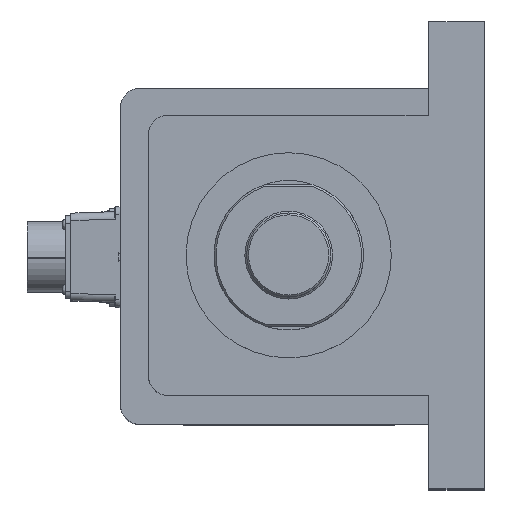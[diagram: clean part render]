
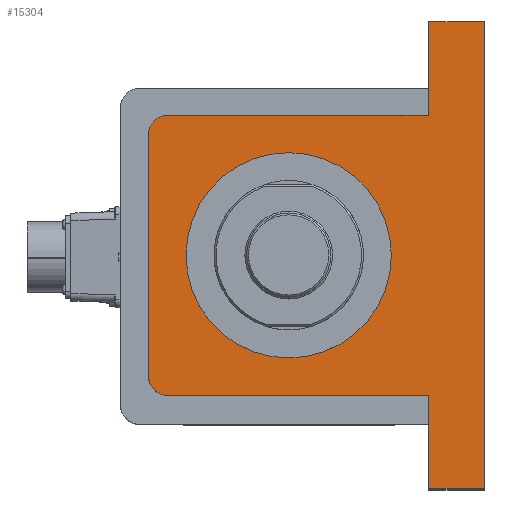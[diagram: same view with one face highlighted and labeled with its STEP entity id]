
A CAD part, top view. The second image highlights one B-rep face of the part: STEP entity #15304.
In plain terms, the highlighted planar face has unit normal (0, 0, 1).
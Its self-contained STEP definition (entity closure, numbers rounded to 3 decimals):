
#556 = LINE ( 'NONE', #14681, #20848 ) ;
#1033 = VERTEX_POINT ( 'NONE', #9410 ) ;
#1733 = EDGE_CURVE ( 'NONE', #19029, #24377, #5844, .T. ) ;
#1763 = LINE ( 'NONE', #9983, #9506 ) ;
#1933 = EDGE_CURVE ( 'NONE', #23982, #28771, #17025, .T. ) ;
#2106 = LINE ( 'NONE', #24388, #13989 ) ;
#2575 = CARTESIAN_POINT ( 'NONE',  ( -125., -105., 315. ) ) ;
#2619 = VERTEX_POINT ( 'NONE', #18253 ) ;
#2717 = EDGE_CURVE ( 'NONE', #18779, #1033, #19062, .T. ) ;
#2950 = EDGE_CURVE ( 'NONE', #28771, #23982, #3681, .T. ) ;
#3054 = ORIENTED_EDGE ( 'NONE', *, *, #18366, .T. ) ;
#3681 = CIRCLE ( 'NONE', #4233, 55. ) ;
#4233 = AXIS2_PLACEMENT_3D ( 'NONE', #27801, #10031, #23655 ) ;
#4236 = LINE ( 'NONE', #27824, #8810 ) ;
#4328 = DIRECTION ( 'NONE',  ( -1., 0., 0. ) ) ;
#4592 = CARTESIAN_POINT ( 'NONE',  ( 125., -105., 315. ) ) ;
#4876 = CARTESIAN_POINT ( 'NONE',  ( 100., 75., 315. ) ) ;
#5744 = DIRECTION ( 'NONE',  ( -1., 0., 0. ) ) ;
#5844 = CIRCLE ( 'NONE', #24520, 10. ) ;
#6141 = PLANE ( 'NONE',  #25769 ) ;
#6271 = CARTESIAN_POINT ( 'NONE',  ( -75., 65., 315. ) ) ;
#6593 = CARTESIAN_POINT ( 'NONE',  ( -125., -75., 315. ) ) ;
#7053 = LINE ( 'NONE', #4592, #13332 ) ;
#7121 = CARTESIAN_POINT ( 'NONE',  ( -75., -65., 315. ) ) ;
#7254 = ORIENTED_EDGE ( 'NONE', *, *, #2950, .F. ) ;
#7465 = EDGE_LOOP ( 'NONE', ( #15725, #8766, #22548, #11581, #17870, #9852, #23353, #3054, #11811, #12456, #9981, #9662 ) ) ;
#7695 = DIRECTION ( 'NONE',  ( -1., 0., 0. ) ) ;
#7788 = LINE ( 'NONE', #9722, #9535 ) ;
#7827 = EDGE_CURVE ( 'NONE', #2619, #22853, #4236, .T. ) ;
#7860 = CARTESIAN_POINT ( 'NONE',  ( -75., -75., 315. ) ) ;
#7887 = DIRECTION ( 'NONE',  ( 0., 0., -1. ) ) ;
#8068 = DIRECTION ( 'NONE',  ( 0., 1., 0. ) ) ;
#8113 = DIRECTION ( 'NONE',  ( 0., -1., 0. ) ) ;
#8708 = CARTESIAN_POINT ( 'NONE',  ( -55., 0., 315. ) ) ;
#8766 = ORIENTED_EDGE ( 'NONE', *, *, #19034, .T. ) ;
#8810 = VECTOR ( 'NONE', #7695, 1000. ) ;
#8811 = VERTEX_POINT ( 'NONE', #10664 ) ;
#8950 = CARTESIAN_POINT ( 'NONE',  ( 55., 0., 315. ) ) ;
#9032 = CARTESIAN_POINT ( 'NONE',  ( 0., 0., 315. ) ) ;
#9363 = VERTEX_POINT ( 'NONE', #6593 ) ;
#9410 = CARTESIAN_POINT ( 'NONE',  ( 125., -105., 315. ) ) ;
#9506 = VECTOR ( 'NONE', #8113, 1000. ) ;
#9535 = VECTOR ( 'NONE', #16436, 1000. ) ;
#9654 = VECTOR ( 'NONE', #11788, 1000. ) ;
#9662 = ORIENTED_EDGE ( 'NONE', *, *, #1733, .F. ) ;
#9722 = CARTESIAN_POINT ( 'NONE',  ( 75., 0., 315. ) ) ;
#9852 = ORIENTED_EDGE ( 'NONE', *, *, #7827, .T. ) ;
#9981 = ORIENTED_EDGE ( 'NONE', *, *, #24536, .T. ) ;
#9983 = CARTESIAN_POINT ( 'NONE',  ( -125., -75., 315. ) ) ;
#10031 = DIRECTION ( 'NONE',  ( 0., 0., 1. ) ) ;
#10664 = CARTESIAN_POINT ( 'NONE',  ( 75., 65., 315. ) ) ;
#10895 = EDGE_LOOP ( 'NONE', ( #7254, #23669 ) ) ;
#10897 = VECTOR ( 'NONE', #13557, 1000. ) ;
#11164 = DIRECTION ( 'NONE',  ( 0., 0., 1. ) ) ;
#11577 = LINE ( 'NONE', #7860, #12637 ) ;
#11581 = ORIENTED_EDGE ( 'NONE', *, *, #2717, .T. ) ;
#11738 = CARTESIAN_POINT ( 'NONE',  ( 65., 65., 315. ) ) ;
#11788 = DIRECTION ( 'NONE',  ( 1., 0., 0. ) ) ;
#11811 = ORIENTED_EDGE ( 'NONE', *, *, #24058, .F. ) ;
#12456 = ORIENTED_EDGE ( 'NONE', *, *, #14461, .T. ) ;
#12458 = CARTESIAN_POINT ( 'NONE',  ( 0., 0., 315. ) ) ;
#12637 = VECTOR ( 'NONE', #28655, 1000. ) ;
#12845 = VERTEX_POINT ( 'NONE', #23558 ) ;
#13332 = VECTOR ( 'NONE', #13858, 1000. ) ;
#13545 = AXIS2_PLACEMENT_3D ( 'NONE', #9032, #11164, #4328 ) ;
#13557 = DIRECTION ( 'NONE',  ( -1., 0., 0. ) ) ;
#13828 = VERTEX_POINT ( 'NONE', #19909 ) ;
#13858 = DIRECTION ( 'NONE',  ( 0., 1., 0. ) ) ;
#13989 = VECTOR ( 'NONE', #26578, 1000. ) ;
#14228 = FACE_BOUND ( 'NONE', #10895, .T. ) ;
#14461 = EDGE_CURVE ( 'NONE', #8811, #13828, #24870, .T. ) ;
#14604 = AXIS2_PLACEMENT_3D ( 'NONE', #11738, #18302, #18096 ) ;
#14681 = CARTESIAN_POINT ( 'NONE',  ( 75.113, -65., 315. ) ) ;
#15304 = ADVANCED_FACE ( 'NONE', ( #26245, #14228 ), #6141, .F. ) ;
#15725 = ORIENTED_EDGE ( 'NONE', *, *, #25909, .T. ) ;
#15837 = CARTESIAN_POINT ( 'NONE',  ( 75., -65., 315. ) ) ;
#16436 = DIRECTION ( 'NONE',  ( 0., -1., 0. ) ) ;
#16452 = EDGE_CURVE ( 'NONE', #22853, #12845, #556, .T. ) ;
#16744 = CARTESIAN_POINT ( 'NONE',  ( -65., 65., 315. ) ) ;
#16848 = DIRECTION ( 'NONE',  ( 1., 0., 0. ) ) ;
#17025 = CIRCLE ( 'NONE', #13545, 55. ) ;
#17067 = CARTESIAN_POINT ( 'NONE',  ( 75.113, -75., 315. ) ) ;
#17870 = ORIENTED_EDGE ( 'NONE', *, *, #24533, .T. ) ;
#18096 = DIRECTION ( 'NONE',  ( 1., 0., 0. ) ) ;
#18253 = CARTESIAN_POINT ( 'NONE',  ( 125., -75., 315. ) ) ;
#18302 = DIRECTION ( 'NONE',  ( 0., 0., 1. ) ) ;
#18366 = EDGE_CURVE ( 'NONE', #12845, #19245, #27816, .T. ) ;
#18779 = VERTEX_POINT ( 'NONE', #2575 ) ;
#19029 = VERTEX_POINT ( 'NONE', #6271 ) ;
#19034 = EDGE_CURVE ( 'NONE', #23030, #9363, #11577, .T. ) ;
#19062 = LINE ( 'NONE', #25474, #9654 ) ;
#19220 = DIRECTION ( 'NONE',  ( 0., 0., -1. ) ) ;
#19245 = VERTEX_POINT ( 'NONE', #15837 ) ;
#19904 = CARTESIAN_POINT ( 'NONE',  ( -75., -75., 315. ) ) ;
#19909 = CARTESIAN_POINT ( 'NONE',  ( 65., 75., 315. ) ) ;
#20848 = VECTOR ( 'NONE', #8068, 1000. ) ;
#21944 = CARTESIAN_POINT ( 'NONE',  ( -65., 75., 315. ) ) ;
#22548 = ORIENTED_EDGE ( 'NONE', *, *, #24786, .T. ) ;
#22799 = DIRECTION ( 'NONE',  ( -1., 0., 0. ) ) ;
#22836 = LINE ( 'NONE', #4876, #10897 ) ;
#22853 = VERTEX_POINT ( 'NONE', #17067 ) ;
#23030 = VERTEX_POINT ( 'NONE', #19904 ) ;
#23353 = ORIENTED_EDGE ( 'NONE', *, *, #16452, .T. ) ;
#23558 = CARTESIAN_POINT ( 'NONE',  ( 75.113, -65., 315. ) ) ;
#23655 = DIRECTION ( 'NONE',  ( -1., 0., 0. ) ) ;
#23669 = ORIENTED_EDGE ( 'NONE', *, *, #1933, .F. ) ;
#23982 = VERTEX_POINT ( 'NONE', #8950 ) ;
#24058 = EDGE_CURVE ( 'NONE', #8811, #19245, #7788, .T. ) ;
#24377 = VERTEX_POINT ( 'NONE', #21944 ) ;
#24388 = CARTESIAN_POINT ( 'NONE',  ( -75., 0., 315. ) ) ;
#24520 = AXIS2_PLACEMENT_3D ( 'NONE', #16744, #7887, #16848 ) ;
#24533 = EDGE_CURVE ( 'NONE', #1033, #2619, #7053, .T. ) ;
#24536 = EDGE_CURVE ( 'NONE', #13828, #24377, #22836, .T. ) ;
#24786 = EDGE_CURVE ( 'NONE', #9363, #18779, #1763, .T. ) ;
#24870 = CIRCLE ( 'NONE', #14604, 10. ) ;
#25474 = CARTESIAN_POINT ( 'NONE',  ( -125., -105., 315. ) ) ;
#25769 = AXIS2_PLACEMENT_3D ( 'NONE', #12458, #19220, #5744 ) ;
#25909 = EDGE_CURVE ( 'NONE', #19029, #23030, #2106, .T. ) ;
#26245 = FACE_OUTER_BOUND ( 'NONE', #7465, .T. ) ;
#26578 = DIRECTION ( 'NONE',  ( 0., -1., 0. ) ) ;
#27801 = CARTESIAN_POINT ( 'NONE',  ( 0., 0., 315. ) ) ;
#27816 = LINE ( 'NONE', #7121, #28168 ) ;
#27824 = CARTESIAN_POINT ( 'NONE',  ( 90., -75., 315. ) ) ;
#28168 = VECTOR ( 'NONE', #22799, 1000. ) ;
#28655 = DIRECTION ( 'NONE',  ( -1., 0., 0. ) ) ;
#28771 = VERTEX_POINT ( 'NONE', #8708 ) ;
